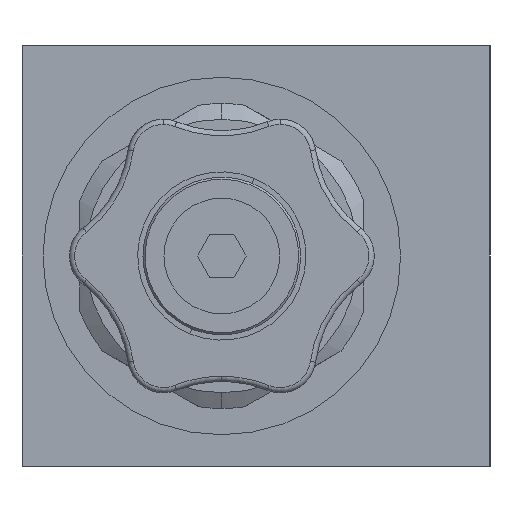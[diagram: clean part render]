
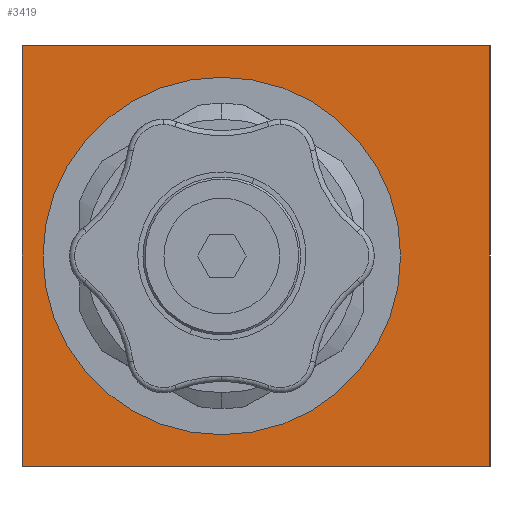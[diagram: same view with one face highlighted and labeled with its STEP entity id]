
A CAD part, left-side view. The second image highlights one B-rep face of the part: STEP entity #3419.
In plain terms, the highlighted planar face has unit normal (-1, 0, 0).
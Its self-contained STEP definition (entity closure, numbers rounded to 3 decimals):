
#298 = PLANE ( 'NONE',  #1671 ) ;
#729 = CARTESIAN_POINT ( 'NONE',  ( 0., 3.25, 0. ) ) ;
#1332 = EDGE_CURVE ( 'NONE', #7452, #10576, #2852, .T. ) ;
#1437 = DIRECTION ( 'NONE',  ( -1., 0., 0. ) ) ;
#1491 = DIRECTION ( 'NONE',  ( 0., 1., 0. ) ) ;
#1523 = EDGE_CURVE ( 'NONE', #9657, #7452, #11537, .T. ) ;
#1528 = EDGE_CURVE ( 'NONE', #13862, #3885, #5730, .T. ) ;
#1671 = AXIS2_PLACEMENT_3D ( 'NONE', #7980, #1437, #9088 ) ;
#1726 = EDGE_CURVE ( 'NONE', #10988, #9657, #10847, .T. ) ;
#1848 = AXIS2_PLACEMENT_3D ( 'NONE', #729, #4969, #2817 ) ;
#2817 = DIRECTION ( 'NONE',  ( 0., 0., 1. ) ) ;
#2852 = LINE ( 'NONE', #7719, #11204 ) ;
#3064 = ORIENTED_EDGE ( 'NONE', *, *, #1523, .F. ) ;
#3138 = CARTESIAN_POINT ( 'NONE',  ( 0., 22.25, 20. ) ) ;
#3375 = CARTESIAN_POINT ( 'NONE',  ( 0., -22.25, 20. ) ) ;
#3419 = ADVANCED_FACE ( 'NONE', ( #13417, #7941 ), #298, .T. ) ;
#3764 = ORIENTED_EDGE ( 'NONE', *, *, #5642, .F. ) ;
#3885 = VERTEX_POINT ( 'NONE', #4553 ) ;
#4553 = CARTESIAN_POINT ( 'NONE',  ( 0., 3.25, -17. ) ) ;
#4559 = CARTESIAN_POINT ( 'NONE',  ( 0., 3.25, 0. ) ) ;
#4969 = DIRECTION ( 'NONE',  ( -1., 0., 0. ) ) ;
#5385 = DIRECTION ( 'NONE',  ( 0., 0., 1. ) ) ;
#5395 = CARTESIAN_POINT ( 'NONE',  ( 0., 3.25, 17. ) ) ;
#5642 = EDGE_CURVE ( 'NONE', #3885, #13862, #13423, .T. ) ;
#5658 = DIRECTION ( 'NONE',  ( 0., 0., 1. ) ) ;
#5730 = CIRCLE ( 'NONE', #1848, 17. ) ;
#6507 = AXIS2_PLACEMENT_3D ( 'NONE', #4559, #12187, #5658 ) ;
#7452 = VERTEX_POINT ( 'NONE', #3375 ) ;
#7719 = CARTESIAN_POINT ( 'NONE',  ( 0., -22.25, 20. ) ) ;
#7940 = VECTOR ( 'NONE', #5385, 1000. ) ;
#7941 = FACE_BOUND ( 'NONE', #13161, .T. ) ;
#7980 = CARTESIAN_POINT ( 'NONE',  ( 0., 22.25, -20. ) ) ;
#8180 = ORIENTED_EDGE ( 'NONE', *, *, #1332, .F. ) ;
#8694 = CARTESIAN_POINT ( 'NONE',  ( 0., -22.25, -20. ) ) ;
#9088 = DIRECTION ( 'NONE',  ( 0., 0., 1. ) ) ;
#9131 = CARTESIAN_POINT ( 'NONE',  ( 0., -22.25, -20. ) ) ;
#9341 = ORIENTED_EDGE ( 'NONE', *, *, #1726, .F. ) ;
#9657 = VERTEX_POINT ( 'NONE', #3138 ) ;
#9724 = CARTESIAN_POINT ( 'NONE',  ( 0., 22.25, 20. ) ) ;
#9975 = ORIENTED_EDGE ( 'NONE', *, *, #1528, .F. ) ;
#10094 = LINE ( 'NONE', #9131, #13003 ) ;
#10211 = DIRECTION ( 'NONE',  ( 0., -1., 0. ) ) ;
#10576 = VERTEX_POINT ( 'NONE', #8694 ) ;
#10847 = LINE ( 'NONE', #9724, #7940 ) ;
#10963 = DIRECTION ( 'NONE',  ( 0., 0., -1. ) ) ;
#10988 = VERTEX_POINT ( 'NONE', #11823 ) ;
#11204 = VECTOR ( 'NONE', #10963, 1000. ) ;
#11312 = CARTESIAN_POINT ( 'NONE',  ( 0., -22.25, 20. ) ) ;
#11345 = EDGE_LOOP ( 'NONE', ( #12759, #8180, #3064, #9341 ) ) ;
#11537 = LINE ( 'NONE', #11312, #14091 ) ;
#11823 = CARTESIAN_POINT ( 'NONE',  ( 0., 22.25, -20. ) ) ;
#12187 = DIRECTION ( 'NONE',  ( -1., 0., 0. ) ) ;
#12759 = ORIENTED_EDGE ( 'NONE', *, *, #13406, .F. ) ;
#13003 = VECTOR ( 'NONE', #1491, 1000. ) ;
#13161 = EDGE_LOOP ( 'NONE', ( #9975, #3764 ) ) ;
#13406 = EDGE_CURVE ( 'NONE', #10576, #10988, #10094, .T. ) ;
#13417 = FACE_OUTER_BOUND ( 'NONE', #11345, .T. ) ;
#13423 = CIRCLE ( 'NONE', #6507, 17. ) ;
#13862 = VERTEX_POINT ( 'NONE', #5395 ) ;
#14091 = VECTOR ( 'NONE', #10211, 1000. ) ;
